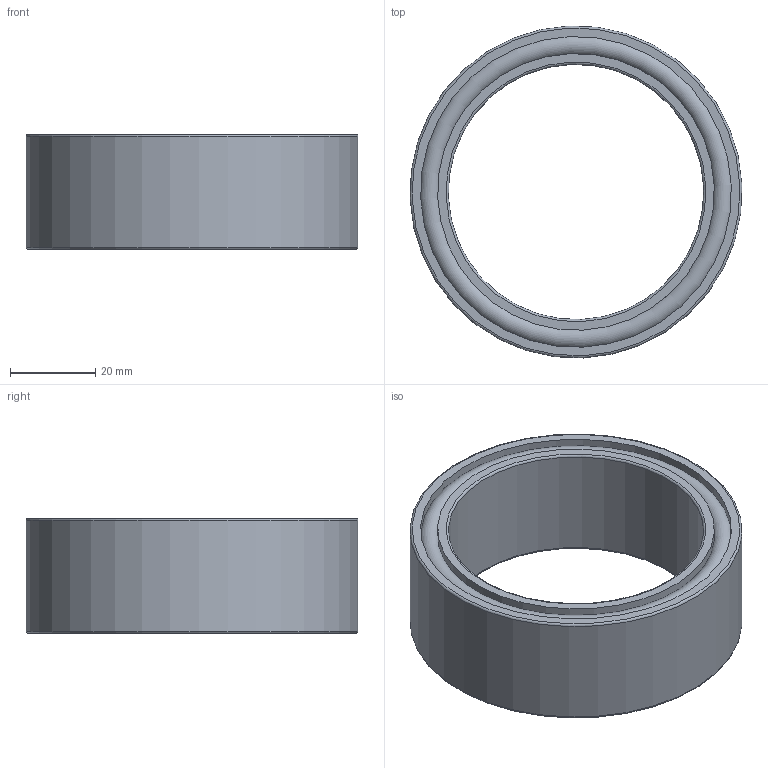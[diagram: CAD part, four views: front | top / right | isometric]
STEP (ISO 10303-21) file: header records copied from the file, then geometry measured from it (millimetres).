
FILE_DESCRIPTION(/* description */ (''),/* implementation_level */ '2;1');
FILE_NAME(/* name */ '300691 FP 473 M.stp',/* time_stamp */ '2016-12-22T15:55:49+01:00',/* author */ (''),/* organization */ (''),/* preprocessor_version */ 'ST-DEVELOPER v15',/* originating_system */ 'SIEMENS PLM Software NX 8.5',/* authorisation */ '');
FILE_SCHEMA (('CONFIG_CONTROL_DESIGN'));
Length unit declared in the file: millimetre
Products named in the file (3): ATE0000080_01; ATE0000093_01; ATE0000095_01
Assembly tree (2 placements, depth 2):
  ATE0000095_01
    ATE0000093_01
    ATE0000080_01
Bounding box: 77.92 x 77.92 x 27 mm (x, y, z)
Volume: 41507.1 mm3; surface area: 37491.4 mm2
Topology: 3 solids, 3 shells, 72 faces, 157 edges, 103 vertices
Faces by surface type: plane 44, cylinder 22, torus 6
Full cylindrical faces by diameter (mm): 60 x1, 65 x3, 69 x1, 70 x1, 71 x1, 72 x2, 73 x4, 78 x1
Entity records: 2128 total; most frequent: DIRECTION 342, CARTESIAN_POINT 299, ORIENTED_EDGE 256, AXIS2_PLACEMENT_3D 139, EDGE_CURVE 128, EDGE_LOOP 112, VERTEX_POINT 96, ADVANCED_FACE 72
